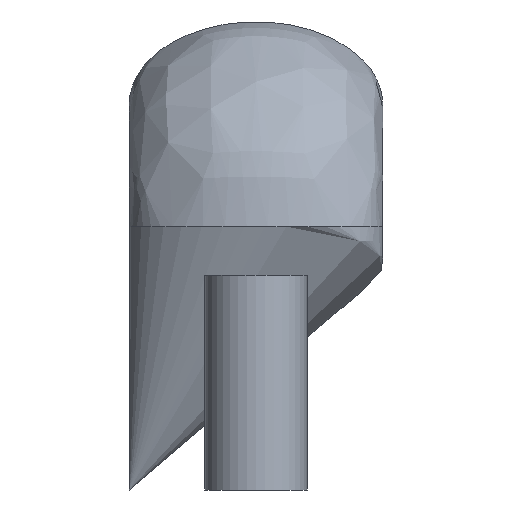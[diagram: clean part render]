
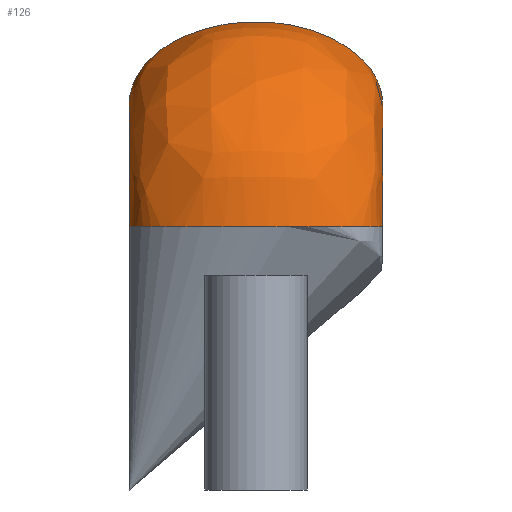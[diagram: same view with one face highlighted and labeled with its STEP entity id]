
A CAD part, left-side view. The second image highlights one B-rep face of the part: STEP entity #126.
In plain terms, the highlighted free-form (B-spline) face has degree [2, 2] with [9, 3] control points.
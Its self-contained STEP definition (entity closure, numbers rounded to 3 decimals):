
#41=CARTESIAN_POINT('',(0.,13.,27.));
#42=VERTEX_POINT('',#41);
#58=CARTESIAN_POINT('',(0.,13.,27.));
#59=CARTESIAN_POINT('',(-8.5,13.,27.));
#60=CARTESIAN_POINT('',(-8.5,0.,27.));
#61=CARTESIAN_POINT('',(-8.5,-13.,27.));
#62=CARTESIAN_POINT('',(0.,-13.,27.));
#63=CARTESIAN_POINT('',(8.5,-13.,27.));
#64=CARTESIAN_POINT('',(8.5,0.,27.));
#65=CARTESIAN_POINT('',(8.5,13.,27.));
#66=CARTESIAN_POINT('',(0.,13.,27.));
#67=(BOUNDED_CURVE()B_SPLINE_CURVE(2,(#58,#59,#60,#61,#62,#63,#64,#65,#66),.UNSPECIFIED.,.T.,.U.)B_SPLINE_CURVE_WITH_KNOTS((3,2,2,2,3),(0.,0.25,0.5,0.75,1.),.UNSPECIFIED.)CURVE()GEOMETRIC_REPRESENTATION_ITEM()RATIONAL_B_SPLINE_CURVE((1.,0.707,1.,0.707,1.,0.707,1.,0.707,1.))REPRESENTATION_ITEM(''));
#68=EDGE_CURVE('',#42,#42,#67,.T.);
#73=CARTESIAN_POINT('',(0.,13.,27.));
#74=CARTESIAN_POINT('',(0.,13.,39.5));
#75=CARTESIAN_POINT('',(12.5,13.,39.5));
#76=CARTESIAN_POINT('',(-8.5,13.,27.));
#77=CARTESIAN_POINT('',(-8.5,13.,48.));
#78=CARTESIAN_POINT('',(12.5,13.,48.));
#79=CARTESIAN_POINT('',(-8.5,0.,27.));
#80=CARTESIAN_POINT('',(-8.5,0.,48.));
#81=CARTESIAN_POINT('',(12.5,0.,48.));
#82=CARTESIAN_POINT('',(-8.5,-13.,27.));
#83=CARTESIAN_POINT('',(-8.5,-13.,48.));
#84=CARTESIAN_POINT('',(12.5,-13.,48.));
#85=CARTESIAN_POINT('',(0.,-13.,27.));
#86=CARTESIAN_POINT('',(0.,-13.,39.5));
#87=CARTESIAN_POINT('',(12.5,-13.,39.5));
#88=CARTESIAN_POINT('',(8.5,-13.,27.));
#89=CARTESIAN_POINT('',(8.5,-13.,31.));
#90=CARTESIAN_POINT('',(12.5,-13.,31.));
#91=CARTESIAN_POINT('',(8.5,0.,27.));
#92=CARTESIAN_POINT('',(8.5,0.,31.));
#93=CARTESIAN_POINT('',(12.5,0.,31.));
#94=CARTESIAN_POINT('',(8.5,13.,27.));
#95=CARTESIAN_POINT('',(8.5,13.,31.));
#96=CARTESIAN_POINT('',(12.5,13.,31.));
#97=CARTESIAN_POINT('',(0.,13.,27.));
#98=CARTESIAN_POINT('',(0.,13.,39.5));
#99=CARTESIAN_POINT('',(12.5,13.,39.5));
#100=(BOUNDED_SURFACE()B_SPLINE_SURFACE(2,2,((#73,#74,#75),(#76,#77,#78),(#79,#80,#81),(#82,#83,#84),(#85,#86,#87),(#88,#89,#90),(#91,#92,#93),(#94,#95,#96),(#97,#98,#99)),.UNSPECIFIED.,.T.,.F.,.U.)B_SPLINE_SURFACE_WITH_KNOTS((3,2,2,2,3),(3,3),(0.,0.25,0.5,0.75,1.),(0.,1.),.UNSPECIFIED.)GEOMETRIC_REPRESENTATION_ITEM()RATIONAL_B_SPLINE_SURFACE(((1.,0.707,1.),(0.707,0.5,0.707),(1.,0.707,1.),(0.707,0.5,0.707),(1.,0.707,1.),(0.707,0.5,0.707),(1.,0.707,1.),(0.707,0.5,0.707),(1.,0.707,1.)))REPRESENTATION_ITEM('')SURFACE());
#101=CARTESIAN_POINT('',(12.5,13.,39.5));
#102=VERTEX_POINT('',#101);
#103=CARTESIAN_POINT('',(12.5,13.,27.));
#104=DIRECTION('',(-1.,0.,0.));
#105=DIRECTION('',(0.,1.,0.));
#106=AXIS2_PLACEMENT_3D('',#103,#105,#104);
#107=CIRCLE('',#106,12.5);
#108=EDGE_CURVE('',#42,#102,#107,.T.);
#109=ORIENTED_EDGE('E5',*,*,#108,.F.);
#110=ORIENTED_EDGE('E5',*,*,#68,.T.);
#111=ORIENTED_EDGE('E5',*,*,#108,.T.);
#112=CARTESIAN_POINT('',(12.5,13.,39.5));
#113=CARTESIAN_POINT('',(12.5,13.,48.));
#114=CARTESIAN_POINT('',(12.5,0.,48.));
#115=CARTESIAN_POINT('',(12.5,-13.,48.));
#116=CARTESIAN_POINT('',(12.5,-13.,39.5));
#117=CARTESIAN_POINT('',(12.5,-13.,31.));
#118=CARTESIAN_POINT('',(12.5,0.,31.));
#119=CARTESIAN_POINT('',(12.5,13.,31.));
#120=CARTESIAN_POINT('',(12.5,13.,39.5));
#121=(BOUNDED_CURVE()B_SPLINE_CURVE(2,(#112,#113,#114,#115,#116,#117,#118,#119,#120),.UNSPECIFIED.,.T.,.U.)B_SPLINE_CURVE_WITH_KNOTS((3,2,2,2,3),(0.,0.25,0.5,0.75,1.),.UNSPECIFIED.)CURVE()GEOMETRIC_REPRESENTATION_ITEM()RATIONAL_B_SPLINE_CURVE((1.,0.707,1.,0.707,1.,0.707,1.,0.707,1.))REPRESENTATION_ITEM(''));
#122=EDGE_CURVE('',#102,#102,#121,.T.);
#123=ORIENTED_EDGE('E6',*,*,#122,.F.);
#124=EDGE_LOOP('',(#109,#110,#111,#123));
#125=FACE_OUTER_BOUND('',#124,.T.);
#126=ADVANCED_FACE('F4',(#125),#100,.T.);
